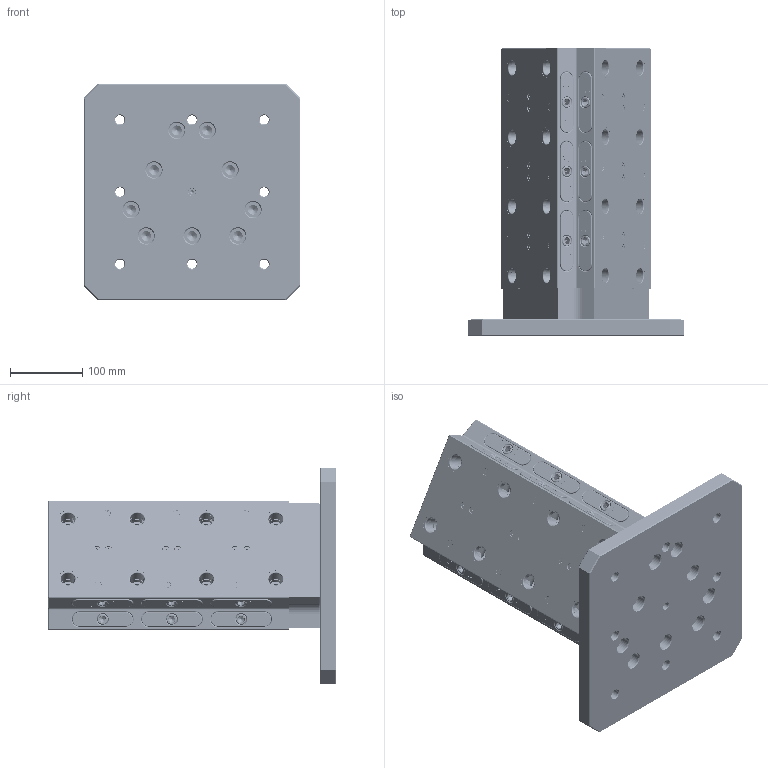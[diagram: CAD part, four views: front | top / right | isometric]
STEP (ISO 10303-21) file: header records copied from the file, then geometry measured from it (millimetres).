
FILE_DESCRIPTION (( 'STEP AP214' ), '1' );
FILE_NAME ('RL96A-3003 & RL96S-3003.STEP', '2019-05-12T21:03:09', ( '' ), ( '' ), 'SwSTEP 2.0', 'SolidWorks 2018', '' );
FILE_SCHEMA (( 'AUTOMOTIVE_DESIGN' ));
Length unit declared in the file: millimetre
Products named in the file (10): RL96-5; RL96-4; RL96-3; RL96-2R; RL96-2L; RL96-3003-1; RL96-3003-2; RL96A-3003 & RL96S-3003; RockLock Double Position; RL96-6_95258A216
Assembly tree (34 placements, depth 3):
  RL96A-3003 & RL96S-3003
    RL96-3003-2
    RL96-3003-1
    RockLock Double Position  x3
      RL96-2L
      RL96-2R
      RL96-3
      RL96-4
      RL96-5
      RL96-6_95258A216
Bounding box: 300 x 400 x 300 mm (x, y, z)
Volume: 10509427.5 mm3; surface area: 1016908.9 mm2
Topology: 89 solids, 89 shells, 7509 faces, 18628 edges, 11816 vertices
Faces by surface type: plane 3723, cylinder 1736, bspline 927, cone 841, torus 282
Entity records: 70215 total; most frequent: CARTESIAN_POINT 22408, DIRECTION 9832, ORIENTED_EDGE 9440, EDGE_CURVE 4720, AXIS2_PLACEMENT_3D 3730, VERTEX_POINT 2974, LINE 2372, VECTOR 2372
